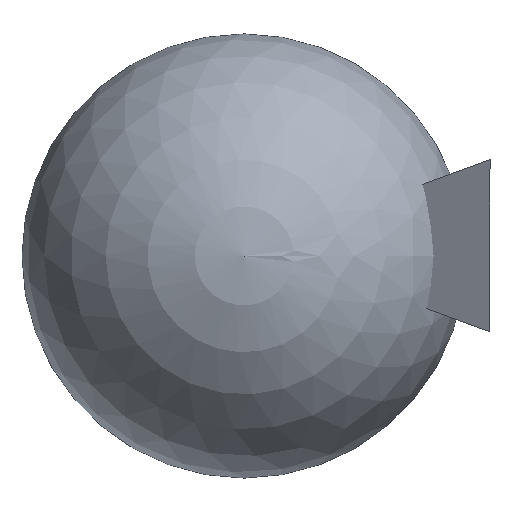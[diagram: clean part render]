
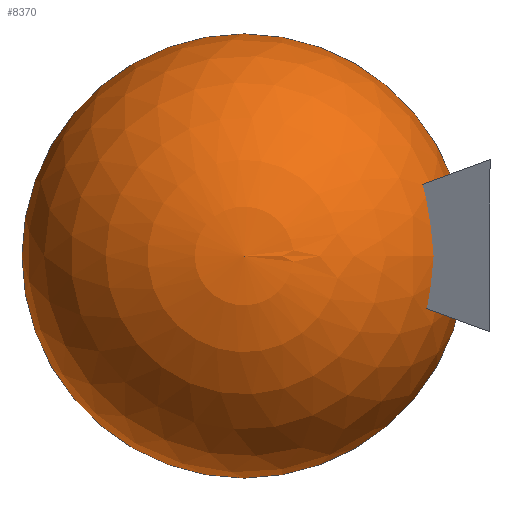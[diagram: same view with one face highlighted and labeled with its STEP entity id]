
A CAD part, front view. The second image highlights one B-rep face of the part: STEP entity #8370.
In plain terms, the highlighted spherical face has radius 1250 mm.
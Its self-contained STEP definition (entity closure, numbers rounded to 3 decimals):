
#8370 = ADVANCED_FACE ( 'NONE', ( #88598 ), #133659, .T. ) ;
#14286 = ORIENTED_EDGE ( 'NONE', *, *, #142014, .T. ) ;
#17889 = ORIENTED_EDGE ( 'NONE', *, *, #61191, .F. ) ;
#25661 = AXIS2_PLACEMENT_3D ( 'NONE', #187922, #75349, #26024 ) ;
#26024 = DIRECTION ( 'NONE',  ( 0., 0., -1. ) ) ;
#38113 = DIRECTION ( 'NONE',  ( 1., 0., 0. ) ) ;
#39002 = DIRECTION ( 'NONE',  ( 0., 0., 1. ) ) ;
#42746 = CIRCLE ( 'NONE', #25661, 1250. ) ;
#52178 = AXIS2_PLACEMENT_3D ( 'NONE', #58294, #123705, #39002 ) ;
#58294 = CARTESIAN_POINT ( 'NONE',  ( 0., 245.265, 4.952 ) ) ;
#61191 = EDGE_CURVE ( 'NONE', #95927, #170266, #42746, .T. ) ;
#62150 = CARTESIAN_POINT ( 'NONE',  ( 0., -1004.735, 4.952 ) ) ;
#75349 = DIRECTION ( 'NONE',  ( 1., 0., 0. ) ) ;
#88598 = FACE_OUTER_BOUND ( 'NONE', #107095, .T. ) ;
#89667 = CARTESIAN_POINT ( 'NONE',  ( 0., 245.265, 4.952 ) ) ;
#95927 = VERTEX_POINT ( 'NONE', #62150 ) ;
#107095 = EDGE_LOOP ( 'NONE', ( #17889, #14286 ) ) ;
#123705 = DIRECTION ( 'NONE',  ( -1., 0., 0. ) ) ;
#133659 = SPHERICAL_SURFACE ( 'NONE', #208131, 1250. ) ;
#142014 = EDGE_CURVE ( 'NONE', #95927, #170266, #192671, .T. ) ;
#170266 = VERTEX_POINT ( 'NONE', #188660 ) ;
#186086 = DIRECTION ( 'NONE',  ( 0., 0., 1. ) ) ;
#187922 = CARTESIAN_POINT ( 'NONE',  ( 0., 245.265, 4.952 ) ) ;
#188660 = CARTESIAN_POINT ( 'NONE',  ( 0., 1495.265, 4.952 ) ) ;
#192671 = CIRCLE ( 'NONE', #52178, 1250. ) ;
#208131 = AXIS2_PLACEMENT_3D ( 'NONE', #89667, #38113, #186086 ) ;
